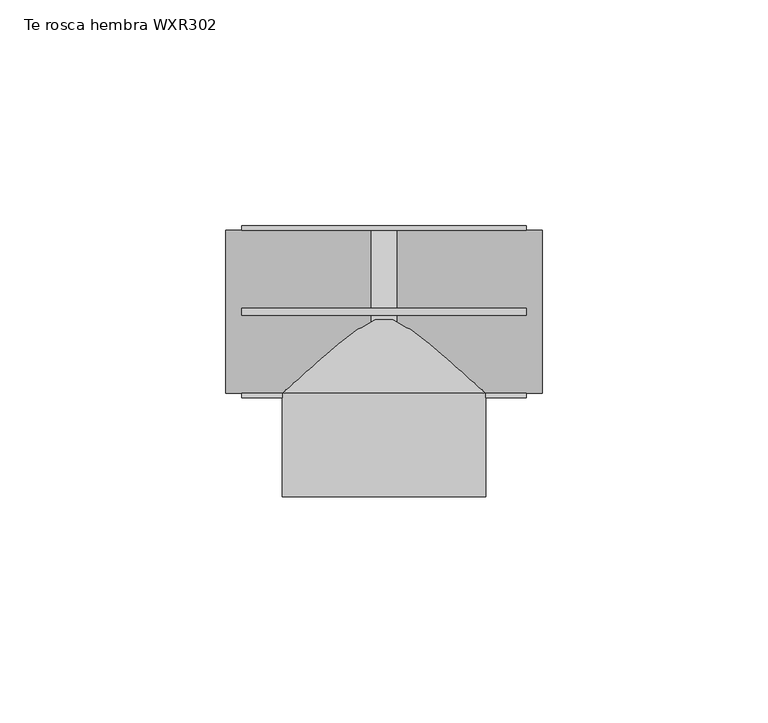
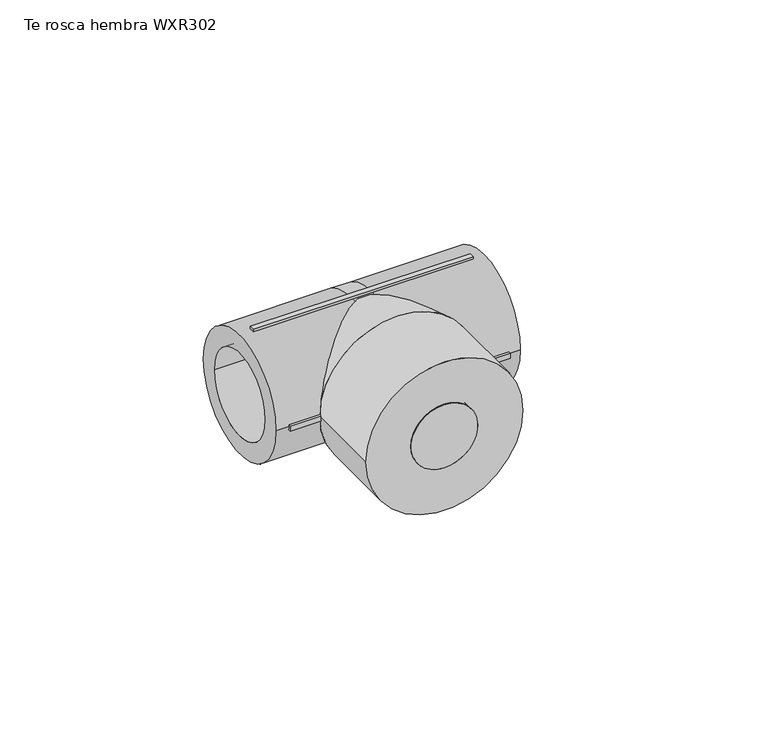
"""IFC4 building model written with IfcOpenShell, lengths in millimetres: pipe fitting geometry, EGB_VASEN_ PPR_Te rosca hembra WXR302 : Te rosca hembra WXR302."""

from ifc_helpers import new_model, si_unit, point, frame, origin, origin_2d, place, context, project, spatial, polyline, circle_curve, trimmed, segment, composite_curve, outline, extrude, source, transform, mapped, element, save
from ifc_brep_helpers import plane_surface, cylinder_surface, revolved_surface, advanced_brep


def te_rosca_hembra_wxr302_1c30db5e(model_context):
    return source(origin(), model_context, "Body", "SolidModel", [
        extrude(outline(composite_curve([segment(trimmed(circle_curve(origin_2d(), 9.525), [point((-9.525, 0.0))], [point((9.525, 0.0))], False, "CARTESIAN"), True, "CONTINUOUS"), segment(trimmed(circle_curve(origin_2d(), 9.525), [point((9.525, 0.0))], [point((-9.525, 0.0))], False, "CARTESIAN"), True, "CONTINUOUS")], self_intersect=False)), frame((0.0, -41.0, 0.0), z_axis=(0.0, 1.0, 0.0), x_axis=(0.0, 0.0, 1.0)), (0.0, 0.0, 1.0), 23.0),
        advanced_brep(
        [(2.8, -12.5, 0.0), (2.8, 12.5, 0.0), (-2.8, 12.5, 0.0), (-2.8, -12.5, 0.0), (-2.8, 18.0, 0.0), (2.8, 18.0, 0.0), (2.8, -18.0, 0.0), (-2.8, -18.0, 0.0), (35.0, -18.0, 0.0), (35.0, 18.0, 0.0), (35.0, -12.5, 0.0), (35.0, 12.5, 0.0), (-35.0, -18.0, 0.0), (-35.0, 18.0, 0.0), (-35.0, -12.5, 0.0), (-35.0, 12.5, 0.0)],
        [
            (0, 1, circle_curve(frame((2.8, 0.0, 0.0), z_axis=(1.0, 0.0, 0.0), x_axis=(0.0, 1.0, 0.0)), 12.5)),
            (1, 0, circle_curve(frame((2.8, 0.0, 0.0), z_axis=(1.0, 0.0, 0.0), x_axis=(0.0, 1.0, 0.0)), 12.5)),
            (2, 3, circle_curve(frame((-2.8, 0.0, 0.0), z_axis=(-1.0, 0.0, 0.0), x_axis=(0.0, 1.0, 0.0)), 12.5)),
            (3, 2, circle_curve(frame((-2.8, 0.0, 0.0), z_axis=(-1.0, 0.0, 0.0), x_axis=(0.0, 1.0, 0.0)), 12.5)),
            (4, 5),
            (5, 6, circle_curve(frame((2.8, 0.0, 0.0), z_axis=(-1.0, 0.0, 0.0), x_axis=(0.0, 0.0, -1.0)), 18.0)),
            (6, 7),
            (7, 4, circle_curve(frame((-2.8, 0.0, 0.0), z_axis=(1.0, 0.0, 0.0), x_axis=(0.0, 0.0, -1.0)), 18.0)),
            (4, 7, circle_curve(frame((-2.8, 0.0, 0.0), z_axis=(1.0, 0.0, 0.0), x_axis=(0.0, 0.0, 1.0)), 18.0)),
            (6, 5, circle_curve(frame((2.8, 0.0, 0.0), z_axis=(-1.0, 0.0, 0.0), x_axis=(0.0, 0.0, 1.0)), 18.0)),
            (8, 9, circle_curve(frame((35.0, 0.0, 0.0), z_axis=(1.0, 0.0, 0.0), x_axis=(0.0, 1.0, 0.0)), 18.0)),
            (9, 8, circle_curve(frame((35.0, 0.0, 0.0), z_axis=(1.0, 0.0, 0.0), x_axis=(0.0, 1.0, 0.0)), 18.0)),
            (10, 11, circle_curve(frame((35.0, 0.0, 0.0), z_axis=(-1.0, 0.0, 0.0), x_axis=(0.0, 1.0, 0.0)), 12.5)),
            (11, 10, circle_curve(frame((35.0, 0.0, 0.0), z_axis=(-1.0, 0.0, 0.0), x_axis=(0.0, 1.0, 0.0)), 12.5)),
            (9, 5),
            (6, 8),
            (11, 1),
            (0, 10),
            (12, 13, circle_curve(frame((-35.0, 0.0, 0.0), z_axis=(-1.0, 0.0, 0.0), x_axis=(0.0, 1.0, 0.0)), 18.0)),
            (13, 12, circle_curve(frame((-35.0, 0.0, 0.0), z_axis=(-1.0, 0.0, 0.0), x_axis=(0.0, 1.0, 0.0)), 18.0)),
            (14, 15, circle_curve(frame((-35.0, 0.0, 0.0), z_axis=(1.0, 0.0, 0.0), x_axis=(0.0, 1.0, 0.0)), 12.5)),
            (15, 14, circle_curve(frame((-35.0, 0.0, 0.0), z_axis=(1.0, 0.0, 0.0), x_axis=(0.0, 1.0, 0.0)), 12.5)),
            (12, 7),
            (4, 13),
            (14, 3),
            (2, 15),
        ],
        [
            plane_surface(frame((2.8, 0.0, 0.0), z_axis=(1.0, 0.0, 0.0), x_axis=(0.0, 0.0, -1.0))),
            plane_surface(frame((-2.8, 0.0, 0.0), z_axis=(-1.0, 0.0, 0.0), x_axis=(0.0, 0.0, -1.0))),
            cylinder_surface(frame((-2.8, 0.0, 0.0), z_axis=(1.0, 0.0, 0.0), x_axis=(0.0, 0.0, -1.0)), 18.0),
            cylinder_surface(frame((-2.8, 0.0, 0.0), z_axis=(1.0, 0.0, 0.0), x_axis=(0.0, 0.0, 1.0)), 18.0),
            plane_surface(frame((35.0, 0.0, 0.0), z_axis=(1.0, 0.0, 0.0), x_axis=(0.0, 0.0, 1.0))),
            cylinder_surface(frame((2.8, 0.0, 0.0), z_axis=(-1.0, 0.0, 0.0), x_axis=(0.0, 1.0, 0.0)), 18.0),
            revolved_surface(polyline([(35.0, 12.5, 0.0), (2.8, 12.5, 0.0)]), (2.8, 0.0, 0.0), (1.0, 0.0, 0.0)),
            plane_surface(frame((-35.0, 0.0, 0.0), z_axis=(-1.0, 0.0, 0.0), x_axis=(0.0, 0.0, 1.0))),
            cylinder_surface(frame((-35.0, 0.0, 0.0), z_axis=(-1.0, 0.0, 0.0), x_axis=(0.0, 1.0, 0.0)), 18.0),
            revolved_surface(polyline([(-2.799999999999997, 12.5, 0.0), (-35.0, 12.5, 0.0)]), (-35.0, 0.0, 0.0), (1.0, 0.0, 0.0)),
        ],
        [
            (0, [[1, 2]]),
            (1, [[3, 4]]),
            (2, [[5, 6, 7, 8]]),
            (3, [[-5, 9, -7, 10]]),
            (4, [[11, 12], [13, 14]]),
            (5, [[-12, 15, -10, 16]]),
            (5, [[-11, -16, -6, -15]]),
            (6, [[-14, 17, -1, 18]]),
            (6, [[-13, -18, -2, -17]]),
            (7, [[19, 20], [21, 22]]),
            (8, [[-19, 23, -9, 24]]),
            (8, [[-20, -24, -8, -23]]),
            (9, [[-21, 25, -3, 26]]),
            (9, [[-22, -26, -4, -25]]),
        ],
    ),
        extrude(outline(composite_curve([segment(trimmed(circle_curve(origin_2d(), 22.5), [point((0.0, 22.5))], [point((0.0, -22.5))], False, "CARTESIAN"), True, "CONTINUOUS"), segment(trimmed(circle_curve(origin_2d(), 22.5), [point((0.0, -22.5))], [point((0.0, 22.5))], False, "CARTESIAN"), True, "CONTINUOUS")], self_intersect=False), holes=[composite_curve([segment(trimmed(circle_curve(origin_2d(), 9.525), [point((0.0, 9.525))], [point((0.0, -9.525))], True, "CARTESIAN"), True, "CONTINUOUS"), segment(trimmed(circle_curve(origin_2d(), 9.525), [point((0.0, -9.525))], [point((0.0, 9.525))], True, "CARTESIAN"), True, "CONTINUOUS")], self_intersect=False)]), frame((0.0, -41.0, 0.0), z_axis=(0.0, 1.0, 0.0), x_axis=(0.0, 0.0, 1.0)), (0.0, 0.0, 1.0), 23.0),
        advanced_brep(
        [(18.0, 0.0, 0.0), (-18.0, 0.0, 0.0), (22.5, -18.0, 0.0), (-22.5, -18.0, 0.0)],
        [
            (0, 1, circle_curve(frame((0.0, 0.0, 0.0), z_axis=(0.0, 1.0, 0.0), x_axis=(1.0, 0.0, 0.0)), 18.0)),
            (1, 0, circle_curve(frame((0.0, 0.0, 0.0), z_axis=(0.0, 1.0, 0.0), x_axis=(-1.0, 0.0, 0.0)), 18.0)),
            (2, 3, circle_curve(frame((0.0, -18.0, 0.0), z_axis=(0.0, -1.0, 0.0), x_axis=(-1.0, 0.0, 0.0)), 22.5)),
            (3, 2, circle_curve(frame((0.0, -18.0, 0.0), z_axis=(0.0, -1.0, 0.0), x_axis=(1.0, 0.0, 0.0)), 22.5)),
            (3, 1),
            (0, 2),
        ],
        [
            plane_surface(frame((0.0, 0.0, 0.0), z_axis=(0.0, 1.0, 0.0), x_axis=(0.0, 0.0, -1.0))),
            plane_surface(frame((0.0, -18.0, 0.0), z_axis=(0.0, -1.0, 0.0), x_axis=(0.0, 0.0, -1.0))),
            revolved_surface(polyline([(18.0, 0.0, 0.0), (22.5, -18.0, 0.0)]), (0.0, 72.0, 0.0), (0.0, -1.0, 0.0)),
            revolved_surface(polyline([(-18.0, 0.0, 0.0), (-22.5, -18.0, 0.0)]), (0.0, 72.0, 0.0), (0.0, -1.0, 0.0)),
        ],
        [
            (0, [[1, 2]]),
            (1, [[3, 4]]),
            (2, [[-4, 5, -1, 6]]),
            (3, [[-3, -6, -2, -5]]),
        ],
    ),
        extrude(outline(polyline([(31.5, 0.75), (31.5, -0.75), (-31.5, -0.75), (-31.5, 0.75), (31.5, 0.75)])), frame((0.0, 0.0, 17.0), z_axis=(0.0, 0.0, 1.0), x_axis=(1.0, 0.0, 0.0)), (0.0, 0.0, 1.0), 2.0),
        extrude(outline(polyline([(31.5, 0.75), (31.5, -0.75), (-31.5, -0.75), (-31.5, 0.75), (31.5, 0.75)])), frame((0.0, 0.0, -19.0), z_axis=(0.0, 0.0, 1.0), x_axis=(1.0, 0.0, 0.0)), (0.0, 0.0, 1.0), 2.0),
        extrude(outline(polyline([(31.5, 19.0), (31.5, 17.0), (-31.5, 17.0), (-31.5, 19.0), (31.5, 19.0)])), frame((0.0, 0.0, -0.75), z_axis=(0.0, 0.0, 1.0), x_axis=(1.0, 0.0, 0.0)), (0.0, 0.0, 1.0), 1.5),
        extrude(outline(polyline([(31.5, -17.0), (31.5, -19.0), (-31.5, -19.0), (-31.5, -17.0), (31.5, -17.0)])), frame((0.0, 0.0, -0.75), z_axis=(0.0, 0.0, 1.0), x_axis=(1.0, 0.0, 0.0)), (0.0, 0.0, 1.0), 1.5),
    ])


if __name__ == "__main__":
    model = new_model("IFC4")
    model_context = context("Model", 3, world=origin())
    ifc_project = project(units=[si_unit("LENGTHUNIT", "METRE", prefix="MILLI")], contexts=[model_context])
    site = spatial("IfcSite", under=ifc_project)
    building = spatial("IfcBuilding", under=site)
    placement = place(None, origin())
    te_rosca_hembra_wxr302_shape = te_rosca_hembra_wxr302_1c30db5e(model_context)
    element("IfcPipeFitting", 1, ObjectType="EGB_VASEN_ PPR_Te rosca hembra WXR302 : Te rosca hembra WXR302", at=placement, inside=building, context=model_context, shape_type="MappedRepresentation", body=[
        mapped(te_rosca_hembra_wxr302_shape, transform((0.0, 0.0, 0.0), x_axis=(1.0, 0.0, 0.0), y_axis=(0.0, 1.0, 0.0), z_axis=(0.0, 0.0, 1.0))),
    ])
    save(model, "model.ifc")
